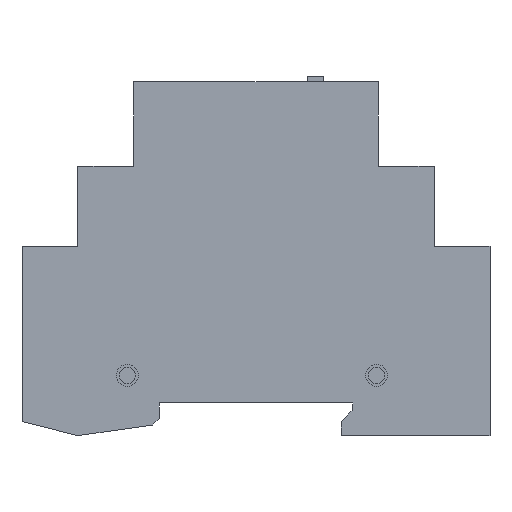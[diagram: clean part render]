
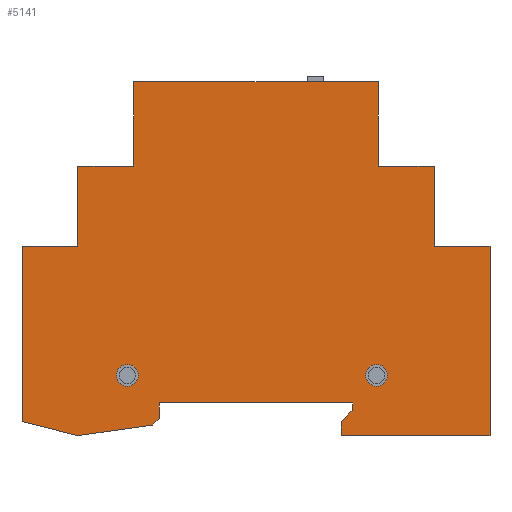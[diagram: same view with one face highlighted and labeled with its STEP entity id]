
A CAD part, left-side view. The second image highlights one B-rep face of the part: STEP entity #5141.
In plain terms, the highlighted planar face has unit normal (-1, 0, 0).
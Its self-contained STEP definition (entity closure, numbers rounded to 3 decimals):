
#199=FACE_BOUND('',#715,.T.);
#200=FACE_BOUND('',#716,.T.);
#262=CIRCLE('',#5445,2.);
#264=CIRCLE('',#5449,2.);
#394=FACE_OUTER_BOUND('',#714,.T.);
#714=EDGE_LOOP('',(#3587,#3588,#3589,#3590,#3591,#3592,#3593,#3594,#3595,
#3596,#3597,#3598,#3599,#3600,#3601,#3602,#3603,#3604,#3605,#3606,#3607));
#715=EDGE_LOOP('',(#3608));
#716=EDGE_LOOP('',(#3609));
#1044=LINE('',#7093,#1622);
#1048=LINE('',#7101,#1626);
#1051=LINE('',#7107,#1629);
#1054=LINE('',#7113,#1632);
#1057=LINE('',#7119,#1635);
#1060=LINE('',#7125,#1638);
#1063=LINE('',#7131,#1641);
#1066=LINE('',#7137,#1644);
#1069=LINE('',#7143,#1647);
#1072=LINE('',#7149,#1650);
#1075=LINE('',#7155,#1653);
#1078=LINE('',#7161,#1656);
#1081=LINE('',#7167,#1659);
#1084=LINE('',#7173,#1662);
#1087=LINE('',#7179,#1665);
#1090=LINE('',#7185,#1668);
#1093=LINE('',#7191,#1671);
#1096=LINE('',#7197,#1674);
#1099=LINE('',#7203,#1677);
#1102=LINE('',#7209,#1680);
#1105=LINE('',#7214,#1683);
#1622=VECTOR('',#5855,10.);
#1626=VECTOR('',#5861,10.);
#1629=VECTOR('',#5866,10.);
#1632=VECTOR('',#5871,10.);
#1635=VECTOR('',#5876,10.);
#1638=VECTOR('',#5881,10.);
#1641=VECTOR('',#5886,10.);
#1644=VECTOR('',#5891,10.);
#1647=VECTOR('',#5896,10.);
#1650=VECTOR('',#5901,10.);
#1653=VECTOR('',#5906,10.);
#1656=VECTOR('',#5911,10.);
#1659=VECTOR('',#5916,10.);
#1662=VECTOR('',#5921,10.);
#1665=VECTOR('',#5926,10.);
#1668=VECTOR('',#5931,10.);
#1671=VECTOR('',#5936,10.);
#1674=VECTOR('',#5941,10.);
#1677=VECTOR('',#5946,10.);
#1680=VECTOR('',#5951,10.);
#1683=VECTOR('',#5956,10.);
#2205=VERTEX_POINT('',#7081);
#2207=VERTEX_POINT('',#7087);
#2208=VERTEX_POINT('',#7091);
#2209=VERTEX_POINT('',#7092);
#2212=VERTEX_POINT('',#7100);
#2214=VERTEX_POINT('',#7106);
#2216=VERTEX_POINT('',#7112);
#2218=VERTEX_POINT('',#7118);
#2220=VERTEX_POINT('',#7124);
#2222=VERTEX_POINT('',#7130);
#2224=VERTEX_POINT('',#7136);
#2226=VERTEX_POINT('',#7142);
#2228=VERTEX_POINT('',#7148);
#2230=VERTEX_POINT('',#7154);
#2232=VERTEX_POINT('',#7160);
#2234=VERTEX_POINT('',#7166);
#2236=VERTEX_POINT('',#7172);
#2238=VERTEX_POINT('',#7178);
#2240=VERTEX_POINT('',#7184);
#2242=VERTEX_POINT('',#7190);
#2244=VERTEX_POINT('',#7196);
#2246=VERTEX_POINT('',#7202);
#2248=VERTEX_POINT('',#7208);
#2715=EDGE_CURVE('',#2205,#2205,#262,.T.);
#2717=EDGE_CURVE('',#2207,#2207,#264,.T.);
#2718=EDGE_CURVE('',#2208,#2209,#1044,.T.);
#2722=EDGE_CURVE('',#2212,#2208,#1048,.T.);
#2725=EDGE_CURVE('',#2214,#2212,#1051,.T.);
#2728=EDGE_CURVE('',#2216,#2214,#1054,.T.);
#2731=EDGE_CURVE('',#2218,#2216,#1057,.T.);
#2734=EDGE_CURVE('',#2220,#2218,#1060,.T.);
#2737=EDGE_CURVE('',#2222,#2220,#1063,.T.);
#2740=EDGE_CURVE('',#2224,#2222,#1066,.T.);
#2743=EDGE_CURVE('',#2226,#2224,#1069,.T.);
#2746=EDGE_CURVE('',#2228,#2226,#1072,.T.);
#2749=EDGE_CURVE('',#2230,#2228,#1075,.T.);
#2752=EDGE_CURVE('',#2232,#2230,#1078,.T.);
#2755=EDGE_CURVE('',#2234,#2232,#1081,.T.);
#2758=EDGE_CURVE('',#2236,#2234,#1084,.T.);
#2761=EDGE_CURVE('',#2238,#2236,#1087,.T.);
#2764=EDGE_CURVE('',#2240,#2238,#1090,.T.);
#2767=EDGE_CURVE('',#2242,#2240,#1093,.T.);
#2770=EDGE_CURVE('',#2244,#2242,#1096,.T.);
#2773=EDGE_CURVE('',#2246,#2244,#1099,.T.);
#2776=EDGE_CURVE('',#2248,#2246,#1102,.T.);
#2779=EDGE_CURVE('',#2209,#2248,#1105,.T.);
#3587=ORIENTED_EDGE('',*,*,#2779,.F.);
#3588=ORIENTED_EDGE('',*,*,#2718,.F.);
#3589=ORIENTED_EDGE('',*,*,#2722,.F.);
#3590=ORIENTED_EDGE('',*,*,#2725,.F.);
#3591=ORIENTED_EDGE('',*,*,#2728,.F.);
#3592=ORIENTED_EDGE('',*,*,#2731,.F.);
#3593=ORIENTED_EDGE('',*,*,#2734,.F.);
#3594=ORIENTED_EDGE('',*,*,#2737,.F.);
#3595=ORIENTED_EDGE('',*,*,#2740,.F.);
#3596=ORIENTED_EDGE('',*,*,#2743,.F.);
#3597=ORIENTED_EDGE('',*,*,#2746,.F.);
#3598=ORIENTED_EDGE('',*,*,#2749,.F.);
#3599=ORIENTED_EDGE('',*,*,#2752,.F.);
#3600=ORIENTED_EDGE('',*,*,#2755,.F.);
#3601=ORIENTED_EDGE('',*,*,#2758,.F.);
#3602=ORIENTED_EDGE('',*,*,#2761,.F.);
#3603=ORIENTED_EDGE('',*,*,#2764,.F.);
#3604=ORIENTED_EDGE('',*,*,#2767,.F.);
#3605=ORIENTED_EDGE('',*,*,#2770,.F.);
#3606=ORIENTED_EDGE('',*,*,#2773,.F.);
#3607=ORIENTED_EDGE('',*,*,#2776,.F.);
#3608=ORIENTED_EDGE('',*,*,#2715,.T.);
#3609=ORIENTED_EDGE('',*,*,#2717,.T.);
#4896=PLANE('',#5473);
#5141=ADVANCED_FACE('',(#394,#199,#200),#4896,.F.);
#5445=AXIS2_PLACEMENT_3D('',#7082,#5841,#5842);
#5449=AXIS2_PLACEMENT_3D('',#7088,#5849,#5850);
#5473=AXIS2_PLACEMENT_3D('',#7217,#5960,#5961);
#5841=DIRECTION('center_axis',(1.,0.,0.));
#5842=DIRECTION('ref_axis',(0.,0.,-1.));
#5849=DIRECTION('center_axis',(1.,0.,0.));
#5850=DIRECTION('ref_axis',(0.,0.,-1.));
#5855=DIRECTION('',(0.,0.97,0.243));
#5861=DIRECTION('',(0.,0.99,-0.138));
#5866=DIRECTION('',(0.,0.707,-0.707));
#5871=DIRECTION('',(0.,0.,-1.));
#5876=DIRECTION('',(0.,1.,0.));
#5881=DIRECTION('',(0.,0.,1.));
#5886=DIRECTION('',(0.,-1.,0.));
#5891=DIRECTION('',(0.,-0.707,0.707));
#5896=DIRECTION('',(0.,0.,1.));
#5901=DIRECTION('',(0.,1.,0.));
#5906=DIRECTION('',(0.,0.,-1.));
#5911=DIRECTION('',(0.,-1.,0.));
#5916=DIRECTION('',(0.,0.,-1.));
#5921=DIRECTION('',(0.,-1.,0.));
#5926=DIRECTION('',(0.,0.,-1.));
#5931=DIRECTION('',(0.,-1.,0.));
#5936=DIRECTION('',(0.,0.,1.));
#5941=DIRECTION('',(0.,-1.,0.));
#5946=DIRECTION('',(0.,0.,1.));
#5951=DIRECTION('',(0.,-1.,0.));
#5956=DIRECTION('',(0.,0.,1.));
#5960=DIRECTION('center_axis',(1.,0.,0.));
#5961=DIRECTION('ref_axis',(0.,0.,-1.));
#7081=CARTESIAN_POINT('',(0.,28.481,-16.033));
#7082=CARTESIAN_POINT('Origin',(0.,28.481,-18.033));
#7087=CARTESIAN_POINT('',(0.,-17.327,-16.033));
#7088=CARTESIAN_POINT('Origin',(0.,-17.327,-18.033));
#7091=CARTESIAN_POINT('',(0.,37.579,-29.095));
#7092=CARTESIAN_POINT('',(0.,47.829,-26.53));
#7093=CARTESIAN_POINT('',(0.,37.579,-29.095));
#7100=CARTESIAN_POINT('',(0.,23.84,-27.176));
#7101=CARTESIAN_POINT('',(0.,23.84,-27.176));
#7106=CARTESIAN_POINT('',(0.,22.579,-25.916));
#7107=CARTESIAN_POINT('',(0.,22.579,-25.916));
#7112=CARTESIAN_POINT('',(0.,22.579,-23.092));
#7113=CARTESIAN_POINT('',(0.,22.579,-23.092));
#7118=CARTESIAN_POINT('',(0.,-12.921,-23.092));
#7119=CARTESIAN_POINT('',(0.,-12.921,-23.092));
#7124=CARTESIAN_POINT('',(0.,-12.921,-24.527));
#7125=CARTESIAN_POINT('',(0.,-12.921,-24.527));
#7130=CARTESIAN_POINT('',(0.,-12.823,-24.527));
#7131=CARTESIAN_POINT('',(0.,-12.823,-24.527));
#7136=CARTESIAN_POINT('',(0.,-10.823,-26.527));
#7137=CARTESIAN_POINT('',(0.,-10.823,-26.527));
#7142=CARTESIAN_POINT('',(0.,-10.823,-29.095));
#7143=CARTESIAN_POINT('',(0.,-10.823,-29.095));
#7148=CARTESIAN_POINT('',(0.,-38.171,-29.095));
#7149=CARTESIAN_POINT('',(0.,-38.171,-29.095));
#7154=CARTESIAN_POINT('',(0.,-38.171,5.658));
#7155=CARTESIAN_POINT('',(0.,-38.171,5.658));
#7160=CARTESIAN_POINT('',(0.,-27.921,5.658));
#7161=CARTESIAN_POINT('',(0.,-27.921,5.658));
#7166=CARTESIAN_POINT('',(0.,-27.921,20.405));
#7167=CARTESIAN_POINT('',(0.,-27.921,20.405));
#7172=CARTESIAN_POINT('',(0.,-17.671,20.405));
#7173=CARTESIAN_POINT('',(0.,-17.671,20.405));
#7178=CARTESIAN_POINT('',(0.,-17.671,35.905));
#7179=CARTESIAN_POINT('',(0.,-17.671,35.905));
#7184=CARTESIAN_POINT('',(0.,27.329,35.905));
#7185=CARTESIAN_POINT('',(0.,27.329,35.905));
#7190=CARTESIAN_POINT('',(0.,27.329,20.405));
#7191=CARTESIAN_POINT('',(0.,27.329,20.405));
#7196=CARTESIAN_POINT('',(0.,37.579,20.405));
#7197=CARTESIAN_POINT('',(0.,37.579,20.405));
#7202=CARTESIAN_POINT('',(0.,37.579,5.658));
#7203=CARTESIAN_POINT('',(0.,37.579,5.658));
#7208=CARTESIAN_POINT('',(0.,47.829,5.658));
#7209=CARTESIAN_POINT('',(0.,47.829,5.658));
#7214=CARTESIAN_POINT('',(0.,47.829,-26.53));
#7217=CARTESIAN_POINT('Origin',(0.,4.238,0.217));
